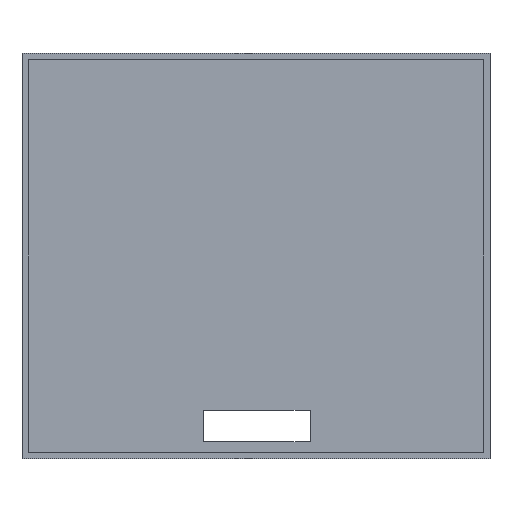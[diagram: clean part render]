
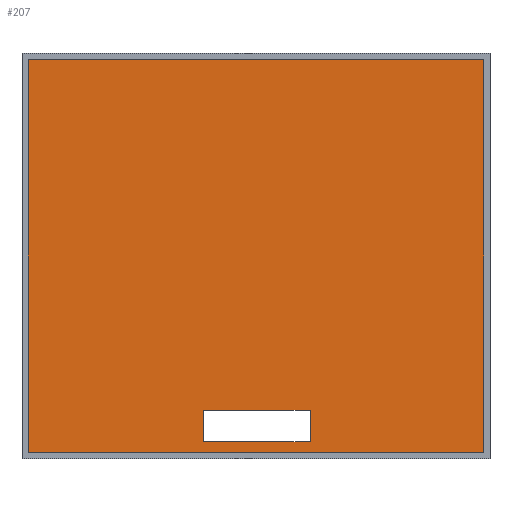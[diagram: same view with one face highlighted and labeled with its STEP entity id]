
A CAD part, front view. The second image highlights one B-rep face of the part: STEP entity #207.
In plain terms, the highlighted planar face has unit normal (0, -1, 0).
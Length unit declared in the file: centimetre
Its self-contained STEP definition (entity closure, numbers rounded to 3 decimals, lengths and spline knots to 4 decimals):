
#9 = ORIENTED_EDGE ( 'NONE', *, *, #395, .F. ) ;
#13 = AXIS2_PLACEMENT_3D ( 'NONE', #106, #304, #34 ) ;
#15 = EDGE_CURVE ( 'NONE', #320, #440, #400, .T. ) ;
#17 = ORIENTED_EDGE ( 'NONE', *, *, #186, .T. ) ;
#34 = DIRECTION ( 'NONE',  ( 0., 0., 1. ) ) ;
#35 = ORIENTED_EDGE ( 'NONE', *, *, #412, .T. ) ;
#41 = DIRECTION ( 'NONE',  ( 0., 0., 1. ) ) ;
#52 = CARTESIAN_POINT ( 'NONE',  ( -3.725, 0.4, 3.125 ) ) ;
#72 = FACE_BOUND ( 'NONE', #390, .T. ) ;
#78 = VECTOR ( 'NONE', #421, 100. ) ;
#81 = CARTESIAN_POINT ( 'NONE',  ( 0., 0.4, -2.4549 ) ) ;
#82 = VERTEX_POINT ( 'NONE', #330 ) ;
#91 = VERTEX_POINT ( 'NONE', #181 ) ;
#106 = CARTESIAN_POINT ( 'NONE',  ( 0., 0.4, 0. ) ) ;
#130 = VERTEX_POINT ( 'NONE', #260 ) ;
#149 = CARTESIAN_POINT ( 'NONE',  ( 0.8615, 0.4, -2.4549 ) ) ;
#162 = DIRECTION ( 'NONE',  ( 1., 0., 0. ) ) ;
#175 = EDGE_CURVE ( 'NONE', #265, #130, #266, .T. ) ;
#176 = VECTOR ( 'NONE', #41, 100. ) ;
#180 = VECTOR ( 'NONE', #250, 100. ) ;
#181 = CARTESIAN_POINT ( 'NONE',  ( -3.625, 0.4, 3.125 ) ) ;
#184 = CARTESIAN_POINT ( 'NONE',  ( -0.8385, 0.4, -2.4549 ) ) ;
#186 = EDGE_CURVE ( 'NONE', #232, #447, #435, .T. ) ;
#187 = FACE_OUTER_BOUND ( 'NONE', #371, .T. ) ;
#199 = LINE ( 'NONE', #457, #78 ) ;
#202 = CARTESIAN_POINT ( 'NONE',  ( 0.8615, 0.4, -2.9549 ) ) ;
#207 = ADVANCED_FACE ( 'NONE', ( #72, #187 ), #473, .F. ) ;
#216 = DIRECTION ( 'NONE',  ( -1., 0., 0. ) ) ;
#226 = VECTOR ( 'NONE', #263, 100. ) ;
#228 = LINE ( 'NONE', #377, #176 ) ;
#232 = VERTEX_POINT ( 'NONE', #184 ) ;
#244 = LINE ( 'NONE', #52, #323 ) ;
#246 = VECTOR ( 'NONE', #406, 100. ) ;
#247 = CARTESIAN_POINT ( 'NONE',  ( 0.8615, 0.4, 0. ) ) ;
#250 = DIRECTION ( 'NONE',  ( -1., 0., 0. ) ) ;
#260 = CARTESIAN_POINT ( 'NONE',  ( 3.625, 0.4, -3.125 ) ) ;
#263 = DIRECTION ( 'NONE',  ( 1., 0., 0. ) ) ;
#265 = VERTEX_POINT ( 'NONE', #480 ) ;
#266 = LINE ( 'NONE', #341, #246 ) ;
#268 = LINE ( 'NONE', #271, #316 ) ;
#271 = CARTESIAN_POINT ( 'NONE',  ( -3.725, 0.4, -3.125 ) ) ;
#275 = EDGE_CURVE ( 'NONE', #440, #232, #228, .T. ) ;
#277 = ORIENTED_EDGE ( 'NONE', *, *, #15, .T. ) ;
#283 = ORIENTED_EDGE ( 'NONE', *, *, #275, .T. ) ;
#287 = LINE ( 'NONE', #247, #411 ) ;
#304 = DIRECTION ( 'NONE',  ( 0., 1., 0. ) ) ;
#316 = VECTOR ( 'NONE', #216, 100. ) ;
#320 = VERTEX_POINT ( 'NONE', #202 ) ;
#323 = VECTOR ( 'NONE', #162, 100. ) ;
#330 = CARTESIAN_POINT ( 'NONE',  ( -3.625, 0.4, -3.125 ) ) ;
#341 = CARTESIAN_POINT ( 'NONE',  ( 3.625, 0.4, -3.225 ) ) ;
#342 = CARTESIAN_POINT ( 'NONE',  ( -0.8385, 0.4, -2.9549 ) ) ;
#358 = EDGE_CURVE ( 'NONE', #91, #265, #244, .T. ) ;
#371 = EDGE_LOOP ( 'NONE', ( #381, #410, #9, #415 ) ) ;
#377 = CARTESIAN_POINT ( 'NONE',  ( -0.8385, 0.4, 0. ) ) ;
#381 = ORIENTED_EDGE ( 'NONE', *, *, #175, .F. ) ;
#390 = EDGE_LOOP ( 'NONE', ( #17, #35, #277, #283 ) ) ;
#392 = DIRECTION ( 'NONE',  ( 0., 0., -1. ) ) ;
#395 = EDGE_CURVE ( 'NONE', #82, #91, #199, .T. ) ;
#400 = LINE ( 'NONE', #472, #180 ) ;
#406 = DIRECTION ( 'NONE',  ( 0., 0., -1. ) ) ;
#410 = ORIENTED_EDGE ( 'NONE', *, *, #358, .F. ) ;
#411 = VECTOR ( 'NONE', #392, 100. ) ;
#412 = EDGE_CURVE ( 'NONE', #447, #320, #287, .T. ) ;
#415 = ORIENTED_EDGE ( 'NONE', *, *, #456, .F. ) ;
#421 = DIRECTION ( 'NONE',  ( 0., 0., 1. ) ) ;
#435 = LINE ( 'NONE', #81, #226 ) ;
#440 = VERTEX_POINT ( 'NONE', #342 ) ;
#447 = VERTEX_POINT ( 'NONE', #149 ) ;
#456 = EDGE_CURVE ( 'NONE', #130, #82, #268, .T. ) ;
#457 = CARTESIAN_POINT ( 'NONE',  ( -3.625, 0.4, -3.225 ) ) ;
#472 = CARTESIAN_POINT ( 'NONE',  ( 0., 0.4, -2.9549 ) ) ;
#473 = PLANE ( 'NONE',  #13 ) ;
#480 = CARTESIAN_POINT ( 'NONE',  ( 3.625, 0.4, 3.125 ) ) ;
